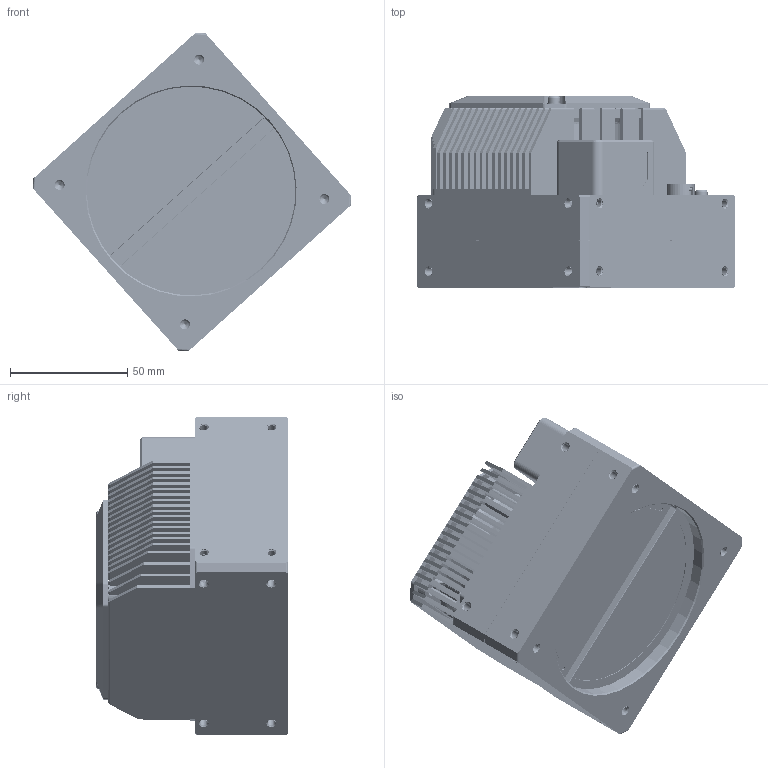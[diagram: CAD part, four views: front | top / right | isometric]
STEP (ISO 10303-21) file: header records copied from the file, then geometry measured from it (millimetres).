
FILE_DESCRIPTION((''),'2;1');
FILE_NAME('0-CL166-B0F2C_ASM','2026-01-20T22:13:09',('zhangqianwen8'),(''),'CREO PARAMETRIC BY PTC INC, 2020044','CREO PARAMETRIC BY PTC INC, 2020044','');
FILE_SCHEMA(('CONFIG_CONTROL_DESIGN'));
Products named in the file (1): 0-CL166-B0F2C_ASM
Bounding box: 135.8 x 81.75 x 135.8 mm (x, y, z)
Volume: 400601 mm3; surface area: 192796.4 mm2
Topology: 30 solids, 119 shells, 12316 faces, 33970 edges, 22242 vertices
Faces by surface type: plane 8115, cylinder 2810, cone 796, bspline 410, torus 150, sphere 22, extrusion 13
Entity records: 450890 total; most frequent: CARTESIAN_POINT 139825, ORIENTED_EDGE 66994, DIRECTION 60216, EDGE_CURVE 33823, VECTOR 23620, LINE 23607, VERTEX_POINT 22241, AXIS2_PLACEMENT_3D 18298
